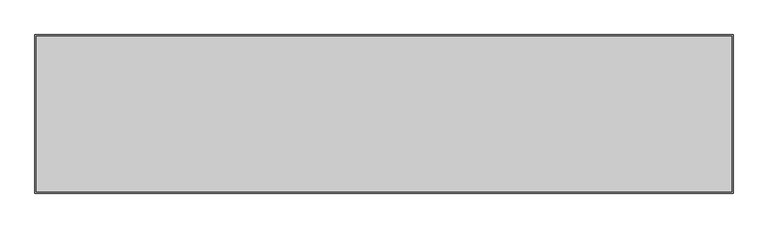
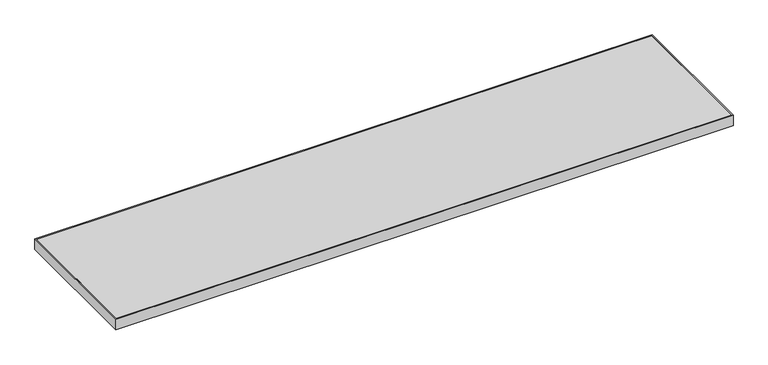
"""IFC4 building model written with IfcOpenShell, lengths in millimetres: furniture geometry, Steelcase - Universal Storage - Square Edge Top - Flush Front - Laminate : Common Top - 15D x 66W."""

from ifc_helpers import new_model, si_unit, frame, origin, place, context, project, spatial, polyline, outline, extrude, source, transform, mapped, element, save


def furniture_005f6b48(model_context):
    return source(origin(), model_context, "Body", "SweptSolid", [
        extrude(outline(polyline([(1673.3520001, -3.0479999), (1673.3520001, -377.9520001), (3.0479999, -377.9520001), (3.0479999, -3.0479999), (1673.3520001, -3.0479999)])), frame((0.0, 0.0, 680.72), z_axis=(0.0, 0.0, 1.0), x_axis=(1.0, 0.0, 0.0)), (0.0, 0.0, 1.0), 30.48),
        extrude(outline(polyline([(1676.4, 0.0), (1676.4, -381.0), (0.0, -381.0), (0.0, 0.0), (1676.4, 0.0)]), holes=[polyline([(1673.3520001, -3.0479999), (3.0479999, -3.0479999), (3.0479999, -377.9520001), (1673.3520001, -377.9520001), (1673.3520001, -3.0479999)])]), frame((0.0, 0.0, 680.72), z_axis=(0.0, 0.0, 1.0), x_axis=(1.0, 0.0, 0.0)), (0.0, 0.0, 1.0), 30.48),
    ])


if __name__ == "__main__":
    model = new_model("IFC4")
    model_context = context("Model", 3, world=origin())
    ifc_project = project(units=[si_unit("LENGTHUNIT", "METRE", prefix="MILLI")], contexts=[model_context])
    site = spatial("IfcSite", under=ifc_project)
    building = spatial("IfcBuilding", under=site)
    placement = place(None, origin())
    furniture_shape = furniture_005f6b48(model_context)
    element("IfcFurniture", 1, ObjectType="Steelcase - Universal Storage - Square Edge Top - Flush Front - Laminate : Common Top - 15D x 66W", at=placement, inside=building, context=model_context, shape_type="MappedRepresentation", body=[
        mapped(furniture_shape, transform((0.0, 0.0, 0.0), x_axis=(1.0, 0.0, 0.0), y_axis=(0.0, 1.0, 0.0), z_axis=(0.0, 0.0, 1.0))),
    ])
    save(model, "model.ifc")
